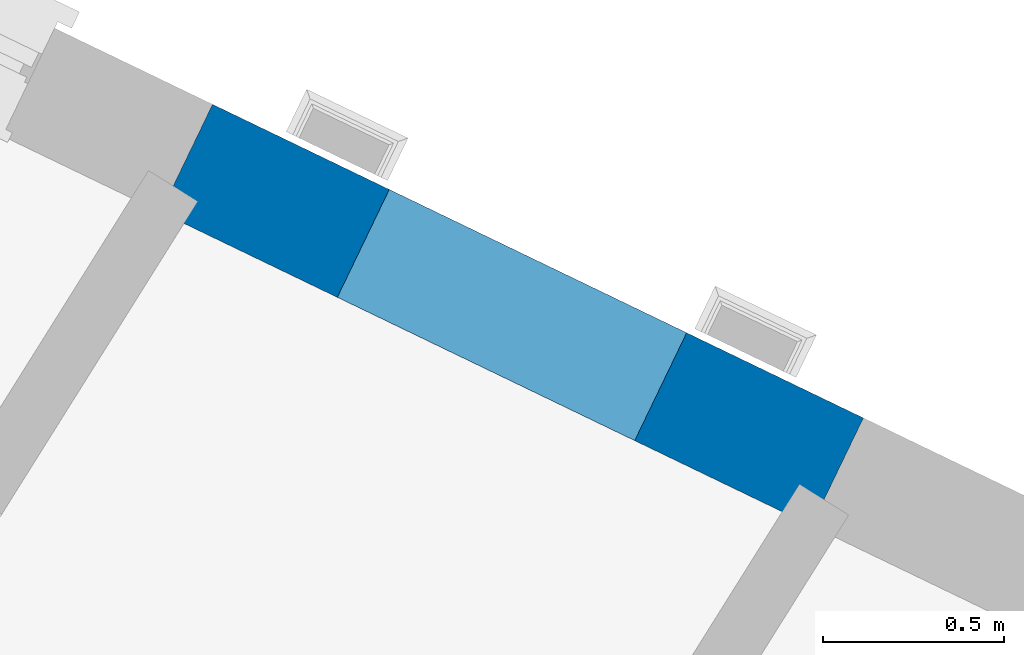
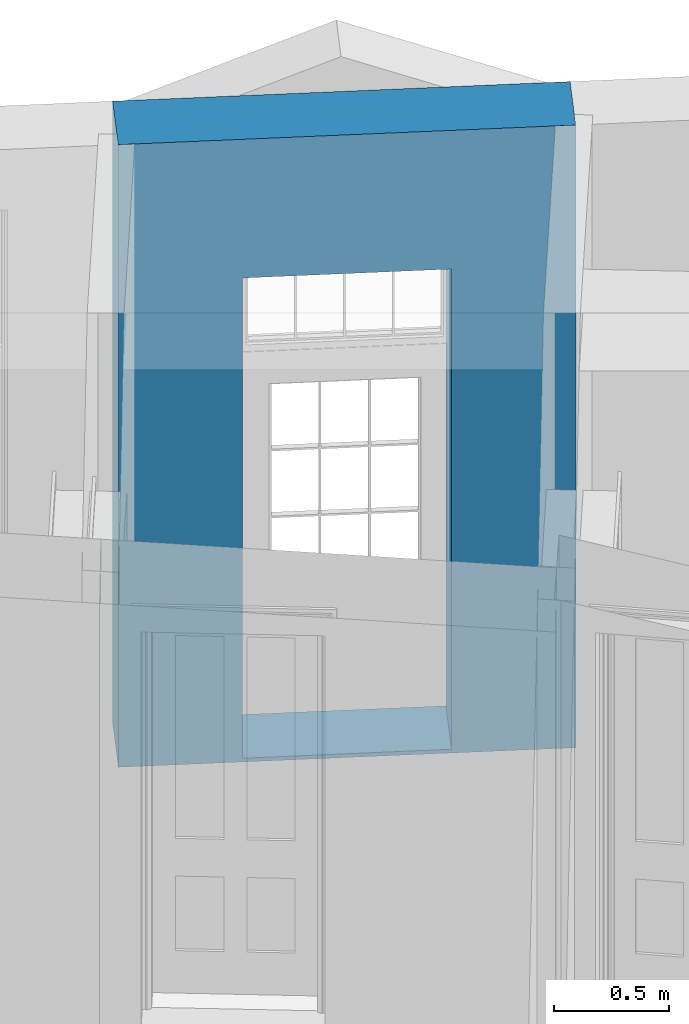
# One storey, part 5 of 6: 1 wall, 1 opening.
"""IFC4 building model written with IfcOpenShell, lengths in metres."""

from ifc_helpers import new_model, si_unit, frame, origin_with_axes, place, context, subcontext, project, spatial, polyline, outline, extrude, material, layer, layer_set, layer_usage, type_object, element, save


model = new_model("IFC4")

# Units and contexts
model_context = context("Model", 3, world=origin_with_axes())
body_context = subcontext(model_context, "Body", "Model", "MODEL_VIEW")
ifc_project = project(units=[si_unit("PLANEANGLEUNIT", "RADIAN"), si_unit("MASSUNIT", "GRAM", prefix="KILO"), si_unit("FORCEUNIT", "NEWTON", prefix="KILO"), si_unit("LENGTHUNIT", "METRE"), si_unit("AREAUNIT", "SQUARE_METRE"), si_unit("VOLUMEUNIT", "CUBIC_METRE")], contexts=[model_context, model_context])

# Sites, building, storey
site_1_placement = place(None, origin_with_axes())
site_1 = spatial("IfcSite", under=ifc_project, at=site_1_placement, Name="Tamar")
site_2_placement = place(site_1_placement, origin_with_axes())
site_2 = spatial("IfcSite", under=site_1, at=site_2_placement, Name="Site plot-0", CompositionType="ELEMENT")
building_placement = place(None, origin_with_axes())
building = spatial("IfcBuilding", under=site_2, at=building_placement, Name="Building plot-0", CompositionType="ELEMENT")
storey_placement = place(None, frame((0.0, 0.0, 26.0), z_axis=(0.0, 0.0, 1.0), x_axis=(1.0, 0.0, 0.0)))
storey = spatial("IfcBuildingStorey", under=building, at=storey_placement, Name="plot-0 0", CompositionType="ELEMENT", Elevation=26.0)

# Wall, opening
ifc_material = material(Name="Masonry")
ifc_layer = layer(ifc_material, 0.33, ventilated=False)
ifc_layer_set = layer_set([ifc_layer], Name="exterior_0.08_0.25")
ifc_layer_usage = layer_usage(ifc_layer_set, "AXIS2", "POSITIVE", -0.25)
wall_type = type_object("IfcWallType", Name="exterior_0.08_0.25", PredefinedType="SOLIDWALL", material=ifc_layer_set)
wall_placement = place(storey_placement, frame((219.003924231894, 301.233570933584, 0.0), z_axis=(0.0, 0.0, 1.0), x_axis=(-0.900856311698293, 0.434117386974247, 0.0)))
wall = element("IfcWall", 1, at=wall_placement, inside=storey, type_object=wall_type, material=ifc_layer_usage, Name="exterior", context=body_context, shape_type="SweptSolid", body=[
    extrude(outline(polyline([(-8.83279832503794e-16, 0.0800000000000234), (1.63910976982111e-14, -0.250000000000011), (1.99172208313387, -0.250000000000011), (1.99172208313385, 0.0800000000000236), (-8.83279832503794e-16, 0.0800000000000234)])), origin_with_axes(), (0.0, 0.0, 1.0), 3.3),
])
opening_placement = place(wall_placement, frame((0.540861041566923, 0.0, 0.0199999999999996)))
element("IfcOpeningElement", 2, at=opening_placement, cuts=wall, Name="My Opening", ObjectType="Opening", context=body_context, shape_type="SweptSolid", body=[
    extrude(outline(polyline([(0.0, -0.26999999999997), (0.909999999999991, -0.269999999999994), (0.909999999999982, 1.09999999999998), (-8.99280649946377e-15, 1.1), (0.0, -0.26999999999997)])), origin_with_axes(), (0.0, 0.0, 1.0), 2.545),
])

save(model, "model.ifc")
